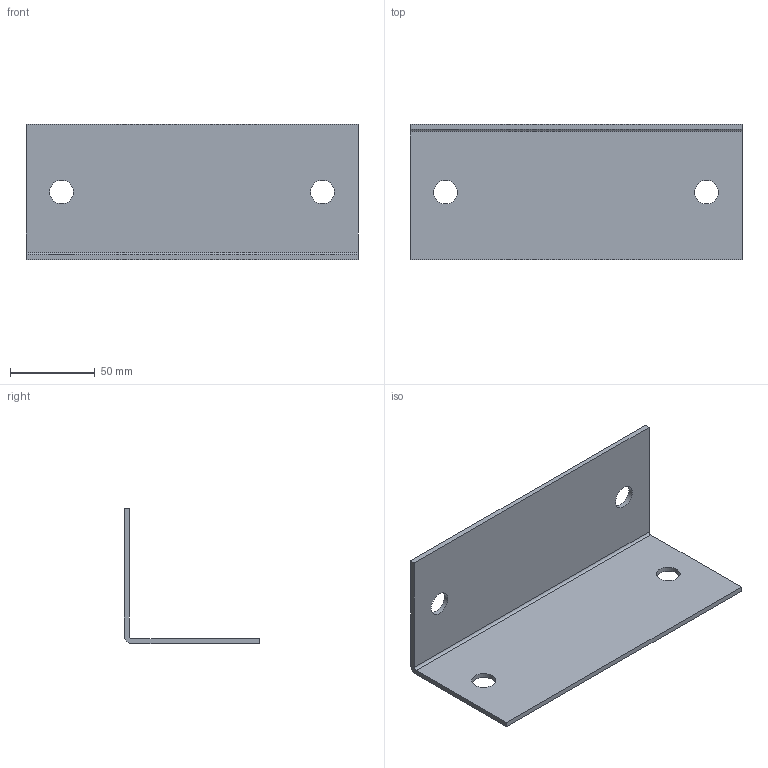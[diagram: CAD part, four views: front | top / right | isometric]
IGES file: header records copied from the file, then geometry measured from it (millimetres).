
Start section:             Generated by a .NET application based on Eyeshot              from devDept Software S.r.l. (www.devdept.com)
Global section: file name: K:\SB_Bloecke\Wandriegelanschluss_L808030\export\DSTV\NC\Files\V200_1.iges; preprocessor: Eyeshot 2024.2.342; author: GRAITEC PowerPack for Autodesk Advance Steel; date: 20241030.150112; units: millimetre
Bounding box: 196 x 80 x 80 mm (x, y, z)
Volume: 89711.1 mm3; surface area: 62445.5 mm2
Topology: 1 solids, 1 shells, 14 faces, 36 edges, 24 vertices
Faces by surface type: plane 8, cylinder 6
Full cylindrical faces by diameter (mm): 14.002 x4
